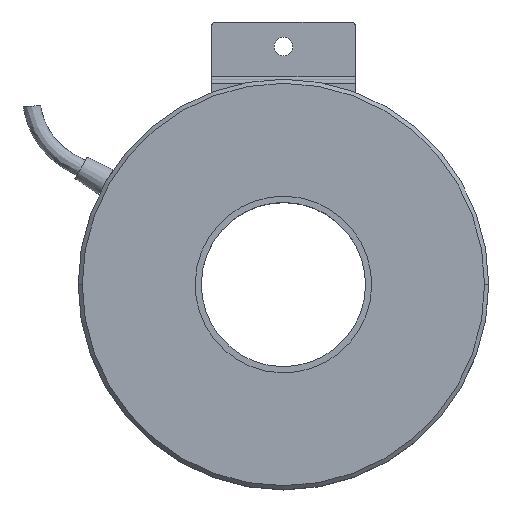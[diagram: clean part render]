
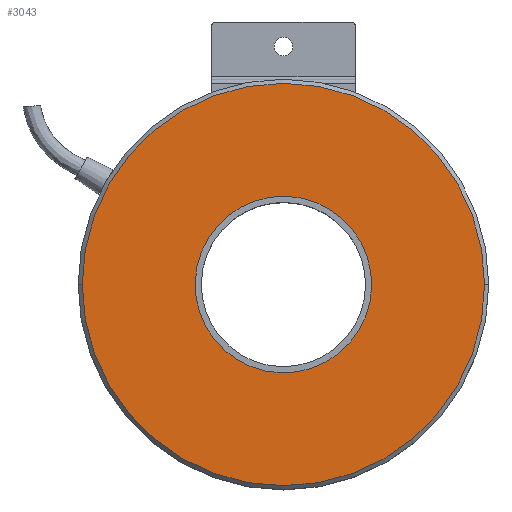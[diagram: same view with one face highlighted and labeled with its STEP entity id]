
A CAD part, top view. The second image highlights one B-rep face of the part: STEP entity #3043.
In plain terms, the highlighted planar face has unit normal (0, 0, 1).
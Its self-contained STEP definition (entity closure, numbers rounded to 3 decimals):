
#22 = ORIENTED_EDGE ( 'NONE', *, *, #1241, .F. ) ;
#80 = PLANE ( 'NONE',  #3717 ) ;
#177 = CARTESIAN_POINT ( 'NONE',  ( 49., 0., 21. ) ) ;
#474 = EDGE_LOOP ( 'NONE', ( #22, #3672 ) ) ;
#551 = EDGE_CURVE ( 'NONE', #3440, #3149, #1194, .T. ) ;
#909 = DIRECTION ( 'NONE',  ( 1., 0., 0. ) ) ;
#961 = CIRCLE ( 'NONE', #3525, 21. ) ;
#1194 = CIRCLE ( 'NONE', #3547, 49. ) ;
#1241 = EDGE_CURVE ( 'NONE', #2466, #2848, #1551, .T. ) ;
#1289 = EDGE_CURVE ( 'NONE', #3149, #3440, #1819, .T. ) ;
#1339 = CARTESIAN_POINT ( 'NONE',  ( 0., 0., 21. ) ) ;
#1350 = DIRECTION ( 'NONE',  ( 1., 0., 0. ) ) ;
#1503 = DIRECTION ( 'NONE',  ( 1., 0., 0. ) ) ;
#1551 = CIRCLE ( 'NONE', #2014, 21. ) ;
#1610 = CARTESIAN_POINT ( 'NONE',  ( 21., 0., 21. ) ) ;
#1691 = FACE_OUTER_BOUND ( 'NONE', #3529, .T. ) ;
#1696 = ORIENTED_EDGE ( 'NONE', *, *, #1289, .T. ) ;
#1709 = DIRECTION ( 'NONE',  ( 0., 0., 1. ) ) ;
#1819 = CIRCLE ( 'NONE', #4107, 49. ) ;
#1960 = CARTESIAN_POINT ( 'NONE',  ( 0., 0., 21. ) ) ;
#2014 = AXIS2_PLACEMENT_3D ( 'NONE', #3109, #2779, #909 ) ;
#2022 = CARTESIAN_POINT ( 'NONE',  ( 0., 0., 21. ) ) ;
#2044 = FACE_BOUND ( 'NONE', #474, .T. ) ;
#2172 = ORIENTED_EDGE ( 'NONE', *, *, #551, .T. ) ;
#2186 = CARTESIAN_POINT ( 'NONE',  ( 0., 0., 21. ) ) ;
#2285 = DIRECTION ( 'NONE',  ( 0., 0., 1. ) ) ;
#2296 = DIRECTION ( 'NONE',  ( 1., 0., 0. ) ) ;
#2416 = CARTESIAN_POINT ( 'NONE',  ( -21., 0., 21. ) ) ;
#2466 = VERTEX_POINT ( 'NONE', #1610 ) ;
#2593 = DIRECTION ( 'NONE',  ( 1., 0., 0. ) ) ;
#2613 = CARTESIAN_POINT ( 'NONE',  ( -49., 0., 21. ) ) ;
#2779 = DIRECTION ( 'NONE',  ( 0., 0., 1. ) ) ;
#2848 = VERTEX_POINT ( 'NONE', #2416 ) ;
#3043 = ADVANCED_FACE ( 'NONE', ( #2044, #1691 ), #80, .T. ) ;
#3107 = EDGE_CURVE ( 'NONE', #2848, #2466, #961, .T. ) ;
#3109 = CARTESIAN_POINT ( 'NONE',  ( 0., 0., 21. ) ) ;
#3149 = VERTEX_POINT ( 'NONE', #2613 ) ;
#3440 = VERTEX_POINT ( 'NONE', #177 ) ;
#3441 = DIRECTION ( 'NONE',  ( 0., 0., 1. ) ) ;
#3525 = AXIS2_PLACEMENT_3D ( 'NONE', #1960, #3950, #1350 ) ;
#3529 = EDGE_LOOP ( 'NONE', ( #1696, #2172 ) ) ;
#3547 = AXIS2_PLACEMENT_3D ( 'NONE', #1339, #2285, #2296 ) ;
#3672 = ORIENTED_EDGE ( 'NONE', *, *, #3107, .F. ) ;
#3717 = AXIS2_PLACEMENT_3D ( 'NONE', #2022, #1709, #2593 ) ;
#3950 = DIRECTION ( 'NONE',  ( 0., 0., 1. ) ) ;
#4107 = AXIS2_PLACEMENT_3D ( 'NONE', #2186, #3441, #1503 ) ;
